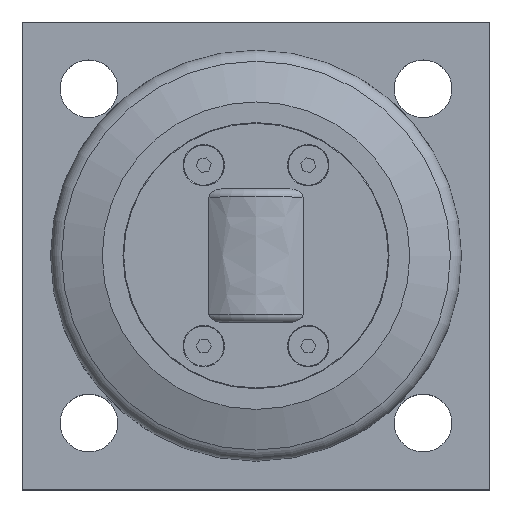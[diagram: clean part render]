
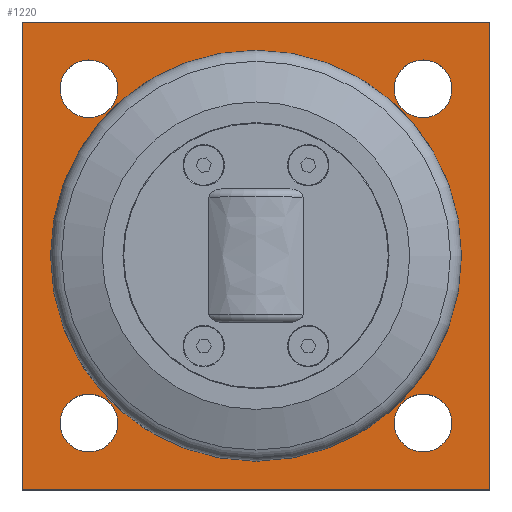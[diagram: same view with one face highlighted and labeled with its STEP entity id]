
A CAD part, top view. The second image highlights one B-rep face of the part: STEP entity #1220.
In plain terms, the highlighted planar face has unit normal (0, 0, 1).
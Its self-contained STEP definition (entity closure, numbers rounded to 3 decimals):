
#50=FACE_BOUND('',#238,.T.);
#51=FACE_BOUND('',#239,.T.);
#52=FACE_BOUND('',#240,.T.);
#53=FACE_BOUND('',#241,.T.);
#54=FACE_BOUND('',#242,.T.);
#99=CIRCLE('',#1340,39.5);
#100=CIRCLE('',#1342,8.647);
#101=CIRCLE('',#1343,8.647);
#102=CIRCLE('',#1344,8.647);
#103=CIRCLE('',#1345,8.647);
#104=CIRCLE('',#1346,8.647);
#105=CIRCLE('',#1347,8.647);
#106=CIRCLE('',#1348,8.647);
#107=CIRCLE('',#1349,8.647);
#164=FACE_OUTER_BOUND('',#237,.T.);
#237=EDGE_LOOP('',(#955,#956,#957,#958));
#238=EDGE_LOOP('',(#959,#960));
#239=EDGE_LOOP('',(#961,#962));
#240=EDGE_LOOP('',(#963,#964));
#241=EDGE_LOOP('',(#965,#966));
#242=EDGE_LOOP('',(#967));
#349=LINE('',#1999,#453);
#350=LINE('',#2001,#454);
#351=LINE('',#2003,#455);
#352=LINE('',#2004,#456);
#453=VECTOR('',#1603,10.);
#454=VECTOR('',#1604,10.);
#455=VECTOR('',#1605,10.);
#456=VECTOR('',#1606,10.);
#562=VERTEX_POINT('',#1993);
#563=VERTEX_POINT('',#1997);
#564=VERTEX_POINT('',#1998);
#565=VERTEX_POINT('',#2000);
#566=VERTEX_POINT('',#2002);
#567=VERTEX_POINT('',#2005);
#568=VERTEX_POINT('',#2006);
#569=VERTEX_POINT('',#2009);
#570=VERTEX_POINT('',#2010);
#571=VERTEX_POINT('',#2013);
#572=VERTEX_POINT('',#2014);
#573=VERTEX_POINT('',#2017);
#574=VERTEX_POINT('',#2018);
#712=EDGE_CURVE('',#562,#562,#99,.T.);
#713=EDGE_CURVE('',#563,#564,#349,.T.);
#714=EDGE_CURVE('',#565,#563,#350,.T.);
#715=EDGE_CURVE('',#566,#565,#351,.T.);
#716=EDGE_CURVE('',#564,#566,#352,.T.);
#717=EDGE_CURVE('',#567,#568,#100,.T.);
#718=EDGE_CURVE('',#568,#567,#101,.T.);
#719=EDGE_CURVE('',#569,#570,#102,.T.);
#720=EDGE_CURVE('',#570,#569,#103,.T.);
#721=EDGE_CURVE('',#571,#572,#104,.T.);
#722=EDGE_CURVE('',#572,#571,#105,.T.);
#723=EDGE_CURVE('',#573,#574,#106,.T.);
#724=EDGE_CURVE('',#574,#573,#107,.T.);
#955=ORIENTED_EDGE('',*,*,#713,.F.);
#956=ORIENTED_EDGE('',*,*,#714,.F.);
#957=ORIENTED_EDGE('',*,*,#715,.F.);
#958=ORIENTED_EDGE('',*,*,#716,.F.);
#959=ORIENTED_EDGE('',*,*,#717,.T.);
#960=ORIENTED_EDGE('',*,*,#718,.T.);
#961=ORIENTED_EDGE('',*,*,#719,.T.);
#962=ORIENTED_EDGE('',*,*,#720,.T.);
#963=ORIENTED_EDGE('',*,*,#721,.T.);
#964=ORIENTED_EDGE('',*,*,#722,.T.);
#965=ORIENTED_EDGE('',*,*,#723,.T.);
#966=ORIENTED_EDGE('',*,*,#724,.T.);
#967=ORIENTED_EDGE('',*,*,#712,.T.);
#1166=PLANE('',#1341);
#1220=ADVANCED_FACE('',(#164,#50,#51,#52,#53,#54),#1166,.T.);
#1340=AXIS2_PLACEMENT_3D('',#1995,#1599,#1600);
#1341=AXIS2_PLACEMENT_3D('',#1996,#1601,#1602);
#1342=AXIS2_PLACEMENT_3D('',#2007,#1607,#1608);
#1343=AXIS2_PLACEMENT_3D('',#2008,#1609,#1610);
#1344=AXIS2_PLACEMENT_3D('',#2011,#1611,#1612);
#1345=AXIS2_PLACEMENT_3D('',#2012,#1613,#1614);
#1346=AXIS2_PLACEMENT_3D('',#2015,#1615,#1616);
#1347=AXIS2_PLACEMENT_3D('',#2016,#1617,#1618);
#1348=AXIS2_PLACEMENT_3D('',#2019,#1619,#1620);
#1349=AXIS2_PLACEMENT_3D('',#2020,#1621,#1622);
#1599=DIRECTION('center_axis',(0.,0.,-1.));
#1600=DIRECTION('ref_axis',(0.,-1.,0.));
#1601=DIRECTION('center_axis',(0.,0.,1.));
#1602=DIRECTION('ref_axis',(1.,0.,0.));
#1603=DIRECTION('',(0.,1.,0.));
#1604=DIRECTION('',(-1.,0.,0.));
#1605=DIRECTION('',(0.,-1.,0.));
#1606=DIRECTION('',(1.,0.,0.));
#1607=DIRECTION('center_axis',(0.,0.,-1.));
#1608=DIRECTION('ref_axis',(1.,0.,0.));
#1609=DIRECTION('center_axis',(0.,0.,-1.));
#1610=DIRECTION('ref_axis',(1.,0.,0.));
#1611=DIRECTION('center_axis',(0.,0.,-1.));
#1612=DIRECTION('ref_axis',(1.,0.,0.));
#1613=DIRECTION('center_axis',(0.,0.,-1.));
#1614=DIRECTION('ref_axis',(1.,0.,0.));
#1615=DIRECTION('center_axis',(0.,0.,-1.));
#1616=DIRECTION('ref_axis',(1.,0.,0.));
#1617=DIRECTION('center_axis',(0.,0.,-1.));
#1618=DIRECTION('ref_axis',(1.,0.,0.));
#1619=DIRECTION('center_axis',(0.,0.,-1.));
#1620=DIRECTION('ref_axis',(1.,0.,0.));
#1621=DIRECTION('center_axis',(0.,0.,-1.));
#1622=DIRECTION('ref_axis',(1.,0.,0.));
#1993=CARTESIAN_POINT('',(70.,109.5,20.));
#1995=CARTESIAN_POINT('Origin',(70.,70.,20.));
#1996=CARTESIAN_POINT('Origin',(70.,70.,20.));
#1997=CARTESIAN_POINT('',(0.,0.,20.));
#1998=CARTESIAN_POINT('',(0.,140.,20.));
#1999=CARTESIAN_POINT('',(0.,140.,20.));
#2000=CARTESIAN_POINT('',(140.,0.,20.));
#2001=CARTESIAN_POINT('',(0.,0.,20.));
#2002=CARTESIAN_POINT('',(140.,140.,20.));
#2003=CARTESIAN_POINT('',(140.,0.,20.));
#2004=CARTESIAN_POINT('',(140.,140.,20.));
#2005=CARTESIAN_POINT('',(28.647,20.,20.));
#2006=CARTESIAN_POINT('',(11.353,20.,20.));
#2007=CARTESIAN_POINT('Origin',(20.,20.,20.));
#2008=CARTESIAN_POINT('Origin',(20.,20.,20.));
#2009=CARTESIAN_POINT('',(128.647,20.,20.));
#2010=CARTESIAN_POINT('',(111.353,20.,20.));
#2011=CARTESIAN_POINT('Origin',(120.,20.,20.));
#2012=CARTESIAN_POINT('Origin',(120.,20.,20.));
#2013=CARTESIAN_POINT('',(128.647,120.,20.));
#2014=CARTESIAN_POINT('',(111.353,120.,20.));
#2015=CARTESIAN_POINT('Origin',(120.,120.,20.));
#2016=CARTESIAN_POINT('Origin',(120.,120.,20.));
#2017=CARTESIAN_POINT('',(28.647,120.,20.));
#2018=CARTESIAN_POINT('',(11.353,120.,20.));
#2019=CARTESIAN_POINT('Origin',(20.,120.,20.));
#2020=CARTESIAN_POINT('Origin',(20.,120.,20.));
